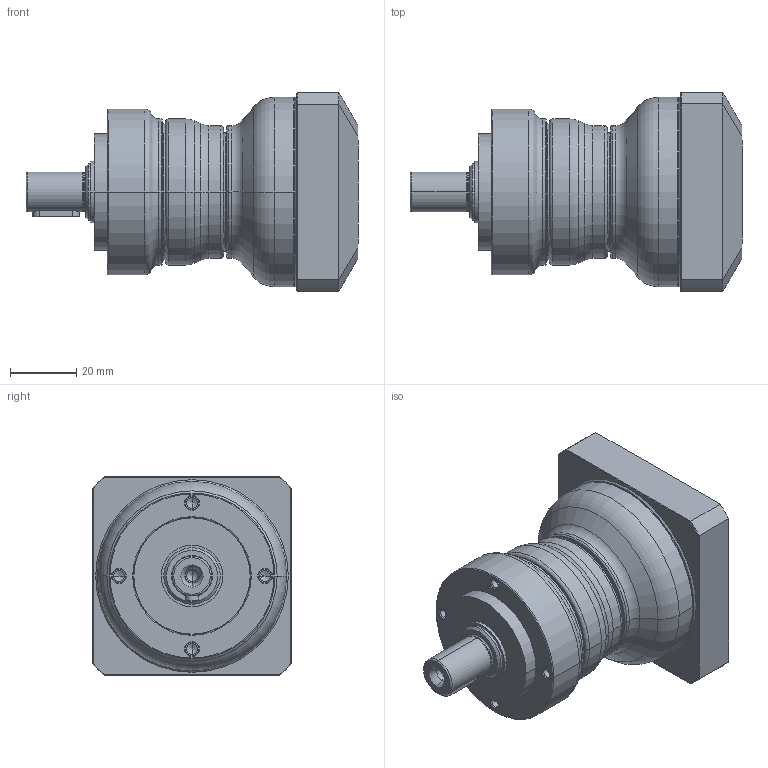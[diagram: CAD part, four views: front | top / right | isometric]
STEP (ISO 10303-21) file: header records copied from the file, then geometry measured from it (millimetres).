
FILE_DESCRIPTION((''),'2;1');
FILE_NAME('PE2-050_1ST_11-P0411200101_ASM','2016-04-20T',('d00435'),(''),'PRO/ENGINEER BY PARAMETRIC TECHNOLOGY CORPORATION, 2008410','PRO/ENGINEER BY PARAMETRIC TECHNOLOGY CORPORATION, 2008410','');
FILE_SCHEMA(('CONFIG_CONTROL_DESIGN'));
Length unit declared in the file: millimetre
Products named in the file (9): P1323100001; P0250100001; P1324100101; P0350101001; P0941101001; P0503200005; P0411200101; P1702300001; PE2-050_1ST_11-P0411200101_ASM
Assembly tree (8 placements, depth 2):
  PE2-050_1ST_11-P0411200101_ASM
    P1323100001
    P0250100001
    P1324100101
    P0350101001
    P0941101001
    P0503200005
    P0411200101
    P1702300001
Bounding box: 100 x 60 x 60 mm (x, y, z)
Volume: 123074.9 mm3; surface area: 50882.5 mm2
Topology: 8 solids, 22 shells, 521 faces, 1168 edges, 690 vertices
Faces by surface type: cylinder 166, cone 148, torus 96, plane 95, bspline 16
Entity records: 19197 total; most frequent: CARTESIAN_POINT 7275, DIRECTION 2741, ORIENTED_EDGE 2208, AXIS2_PLACEMENT_3D 1182, EDGE_CURVE 1132, VERTEX_POINT 690, CIRCLE 650, EDGE_LOOP 600
